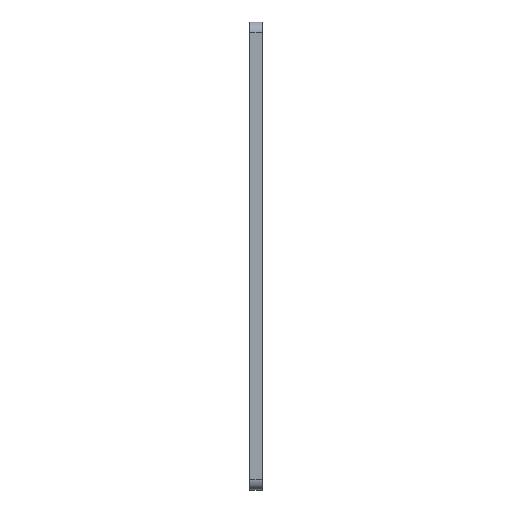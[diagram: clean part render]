
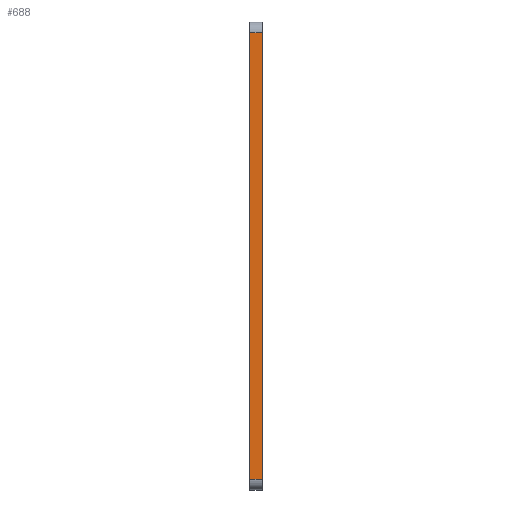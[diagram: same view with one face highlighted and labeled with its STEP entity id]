
A CAD part, left-side view. The second image highlights one B-rep face of the part: STEP entity #688.
In plain terms, the highlighted planar face has unit normal (-1, 0, 0).
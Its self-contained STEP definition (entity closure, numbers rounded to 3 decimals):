
#8 = VECTOR ( 'NONE', #331, 1000. ) ;
#22 = VERTEX_POINT ( 'NONE', #186 ) ;
#73 = CARTESIAN_POINT ( 'NONE',  ( -48.244, 0., 119.634 ) ) ;
#104 = CARTESIAN_POINT ( 'NONE',  ( -48.244, 4., 119.634 ) ) ;
#114 = AXIS2_PLACEMENT_3D ( 'NONE', #206, #859, #434 ) ;
#185 = VECTOR ( 'NONE', #620, 1000. ) ;
#186 = CARTESIAN_POINT ( 'NONE',  ( -48.244, 4., -19.634 ) ) ;
#206 = CARTESIAN_POINT ( 'NONE',  ( -48.244, 4., 119.634 ) ) ;
#272 = EDGE_CURVE ( 'NONE', #22, #805, #585, .T. ) ;
#331 = DIRECTION ( 'NONE',  ( 0., -1., 0. ) ) ;
#349 = VECTOR ( 'NONE', #530, 1000. ) ;
#355 = PLANE ( 'NONE',  #114 ) ;
#358 = ORIENTED_EDGE ( 'NONE', *, *, #272, .T. ) ;
#388 = CARTESIAN_POINT ( 'NONE',  ( -48.244, 4., 119.634 ) ) ;
#411 = VECTOR ( 'NONE', #902, 1000. ) ;
#424 = VERTEX_POINT ( 'NONE', #388 ) ;
#434 = DIRECTION ( 'NONE',  ( 0., 0., 1. ) ) ;
#473 = CARTESIAN_POINT ( 'NONE',  ( -48.244, 4., 119.634 ) ) ;
#499 = ORIENTED_EDGE ( 'NONE', *, *, #531, .T. ) ;
#507 = EDGE_CURVE ( 'NONE', #424, #579, #808, .T. ) ;
#530 = DIRECTION ( 'NONE',  ( 0., 0., -1. ) ) ;
#531 = EDGE_CURVE ( 'NONE', #424, #22, #617, .T. ) ;
#579 = VERTEX_POINT ( 'NONE', #689 ) ;
#585 = LINE ( 'NONE', #762, #8 ) ;
#614 = ORIENTED_EDGE ( 'NONE', *, *, #873, .F. ) ;
#617 = LINE ( 'NONE', #104, #185 ) ;
#620 = DIRECTION ( 'NONE',  ( 0., 0., -1. ) ) ;
#688 = ADVANCED_FACE ( 'NONE', ( #870 ), #355, .T. ) ;
#689 = CARTESIAN_POINT ( 'NONE',  ( -48.244, 0., 119.634 ) ) ;
#714 = CARTESIAN_POINT ( 'NONE',  ( -48.244, 0., -19.634 ) ) ;
#762 = CARTESIAN_POINT ( 'NONE',  ( -48.244, 4., -19.634 ) ) ;
#804 = EDGE_LOOP ( 'NONE', ( #614, #888, #499, #358 ) ) ;
#805 = VERTEX_POINT ( 'NONE', #714 ) ;
#808 = LINE ( 'NONE', #473, #411 ) ;
#859 = DIRECTION ( 'NONE',  ( -1., 0., 0. ) ) ;
#870 = FACE_OUTER_BOUND ( 'NONE', #804, .T. ) ;
#873 = EDGE_CURVE ( 'NONE', #579, #805, #929, .T. ) ;
#888 = ORIENTED_EDGE ( 'NONE', *, *, #507, .F. ) ;
#902 = DIRECTION ( 'NONE',  ( 0., -1., 0. ) ) ;
#929 = LINE ( 'NONE', #73, #349 ) ;
